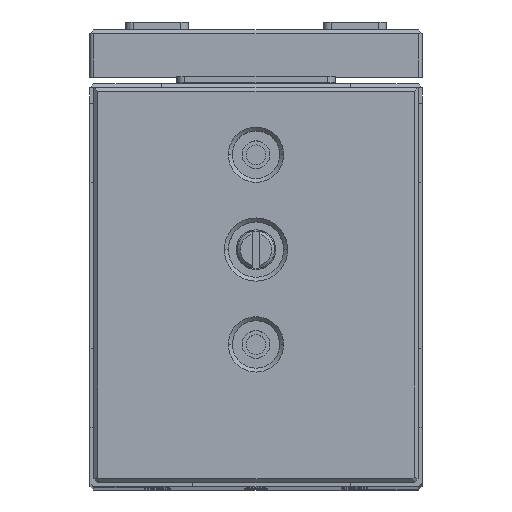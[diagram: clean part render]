
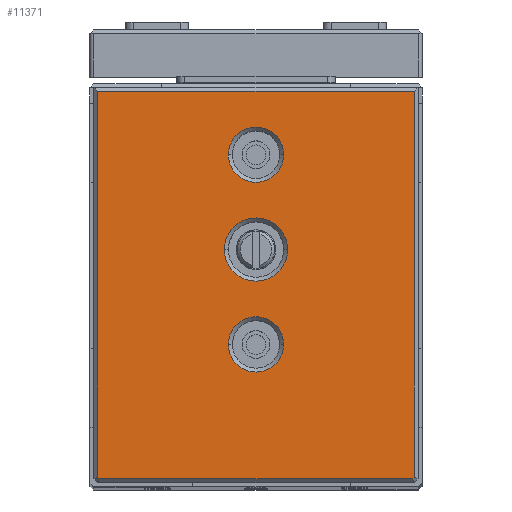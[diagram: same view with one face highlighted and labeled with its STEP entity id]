
A CAD part, top view. The second image highlights one B-rep face of the part: STEP entity #11371.
In plain terms, the highlighted planar face has unit normal (0, 0, 1) as drawn and (0, 0, -1) by its records, which use the part's own axes.
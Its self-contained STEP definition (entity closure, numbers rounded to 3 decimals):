
#3 = EDGE_CURVE ( 'NONE', #129, #25321, #38828, .T. ) ;
#129 = VERTEX_POINT ( 'NONE', #55123 ) ;
#1135 = ORIENTED_EDGE ( 'NONE', *, *, #4489, .T. ) ;
#1777 = EDGE_CURVE ( 'NONE', #36483, #11028, #7159, .T. ) ;
#1961 = DIRECTION ( 'NONE',  ( -1., 0., 0. ) ) ;
#2286 = ORIENTED_EDGE ( 'NONE', *, *, #43385, .T. ) ;
#2479 = CARTESIAN_POINT ( 'NONE',  ( 17., 41.5, 0. ) ) ;
#4348 = DIRECTION ( 'NONE',  ( -1., 0., 0. ) ) ;
#4431 = VERTEX_POINT ( 'NONE', #44861 ) ;
#4489 = EDGE_CURVE ( 'NONE', #55835, #20069, #43599, .T. ) ;
#5368 = DIRECTION ( 'NONE',  ( 1., 0., 0. ) ) ;
#5380 = CARTESIAN_POINT ( 'NONE',  ( 40.5, 49.5, 0. ) ) ;
#5640 = VERTEX_POINT ( 'NONE', #39640 ) ;
#5864 = VECTOR ( 'NONE', #6182, 1000. ) ;
#5960 = CARTESIAN_POINT ( 'NONE',  ( 0.5, 50., 0. ) ) ;
#6182 = DIRECTION ( 'NONE',  ( -0.707, -0.707, 0. ) ) ;
#6479 = FACE_BOUND ( 'NONE', #31575, .T. ) ;
#6733 = CIRCLE ( 'NONE', #37509, 3.5 ) ;
#7077 = LINE ( 'NONE', #5960, #9519 ) ;
#7159 = CIRCLE ( 'NONE', #43366, 3.5 ) ;
#7400 = AXIS2_PLACEMENT_3D ( 'NONE', #27295, #52504, #13710 ) ;
#7451 = AXIS2_PLACEMENT_3D ( 'NONE', #20525, #37807, #15153 ) ;
#7609 = CARTESIAN_POINT ( 'NONE',  ( 20.5, 29.5, 0. ) ) ;
#7794 = LINE ( 'NONE', #42354, #24977 ) ;
#8600 = CARTESIAN_POINT ( 'NONE',  ( 20.5, 17.5, 0. ) ) ;
#9214 = ORIENTED_EDGE ( 'NONE', *, *, #13094, .T. ) ;
#9519 = VECTOR ( 'NONE', #11324, 1000. ) ;
#10965 = DIRECTION ( 'NONE',  ( 0., 0., 1. ) ) ;
#11028 = VERTEX_POINT ( 'NONE', #39099 ) ;
#11198 = EDGE_LOOP ( 'NONE', ( #52863, #2286 ) ) ;
#11324 = DIRECTION ( 'NONE',  ( 0., 1., 0. ) ) ;
#11337 = VERTEX_POINT ( 'NONE', #52389 ) ;
#11371 = ADVANCED_FACE ( 'NONE', ( #54612, #41888, #32814, #6479 ), #19514, .T. ) ;
#12453 = EDGE_CURVE ( 'NONE', #4431, #129, #22522, .T. ) ;
#13045 = VECTOR ( 'NONE', #44964, 1000. ) ;
#13094 = EDGE_CURVE ( 'NONE', #5640, #11337, #42889, .T. ) ;
#13710 = DIRECTION ( 'NONE',  ( -1., 0., 0. ) ) ;
#14025 = VERTEX_POINT ( 'NONE', #43226 ) ;
#15153 = DIRECTION ( 'NONE',  ( -1., 0., 0. ) ) ;
#15481 = CARTESIAN_POINT ( 'NONE',  ( 20.5, 41.5, 0. ) ) ;
#17305 = DIRECTION ( 'NONE',  ( 0., 0., 1. ) ) ;
#19330 = EDGE_LOOP ( 'NONE', ( #49817, #26856, #29463, #20273, #53195, #52871 ) ) ;
#19514 = PLANE ( 'NONE',  #20195 ) ;
#19789 = DIRECTION ( 'NONE',  ( -1., 0., 0. ) ) ;
#20069 = VERTEX_POINT ( 'NONE', #2479 ) ;
#20195 = AXIS2_PLACEMENT_3D ( 'NONE', #49260, #50096, #19789 ) ;
#20273 = ORIENTED_EDGE ( 'NONE', *, *, #41844, .T. ) ;
#20293 = DIRECTION ( 'NONE',  ( -1., 0., 0. ) ) ;
#20525 = CARTESIAN_POINT ( 'NONE',  ( 20.5, 29.5, 0. ) ) ;
#21559 = CARTESIAN_POINT ( 'NONE',  ( 17., 17.5, 0. ) ) ;
#22269 = EDGE_CURVE ( 'NONE', #25321, #51869, #7077, .T. ) ;
#22522 = LINE ( 'NONE', #27048, #29426 ) ;
#22848 = CIRCLE ( 'NONE', #7451, 4. ) ;
#24349 = DIRECTION ( 'NONE',  ( 0., 0., 1. ) ) ;
#24977 = VECTOR ( 'NONE', #50291, 1000. ) ;
#25196 = EDGE_CURVE ( 'NONE', #32846, #14025, #7794, .T. ) ;
#25321 = VERTEX_POINT ( 'NONE', #26754 ) ;
#25641 = CARTESIAN_POINT ( 'NONE',  ( 24., 41.5, 0. ) ) ;
#25864 = EDGE_LOOP ( 'NONE', ( #30522, #9214 ) ) ;
#26754 = CARTESIAN_POINT ( 'NONE',  ( 0.5, 0.707, 0. ) ) ;
#26856 = ORIENTED_EDGE ( 'NONE', *, *, #54667, .T. ) ;
#27048 = CARTESIAN_POINT ( 'NONE',  ( 0.5, 0.5, 0. ) ) ;
#27295 = CARTESIAN_POINT ( 'NONE',  ( 20.5, 41.5, 0. ) ) ;
#29426 = VECTOR ( 'NONE', #39800, 1000. ) ;
#29463 = ORIENTED_EDGE ( 'NONE', *, *, #25196, .T. ) ;
#30522 = ORIENTED_EDGE ( 'NONE', *, *, #38362, .T. ) ;
#30719 = ORIENTED_EDGE ( 'NONE', *, *, #35112, .T. ) ;
#31158 = AXIS2_PLACEMENT_3D ( 'NONE', #7609, #24349, #1961 ) ;
#31575 = EDGE_LOOP ( 'NONE', ( #30719, #1135 ) ) ;
#32814 = FACE_BOUND ( 'NONE', #11198, .T. ) ;
#32846 = VERTEX_POINT ( 'NONE', #5380 ) ;
#34581 = DIRECTION ( 'NONE',  ( -1., 0., 0. ) ) ;
#34866 = CARTESIAN_POINT ( 'NONE',  ( 20.5, 17.5, 0. ) ) ;
#35112 = EDGE_CURVE ( 'NONE', #20069, #55835, #6733, .T. ) ;
#36483 = VERTEX_POINT ( 'NONE', #21559 ) ;
#37509 = AXIS2_PLACEMENT_3D ( 'NONE', #15481, #10965, #20293 ) ;
#37807 = DIRECTION ( 'NONE',  ( 0., 0., 1. ) ) ;
#38362 = EDGE_CURVE ( 'NONE', #11337, #5640, #22848, .T. ) ;
#38828 = LINE ( 'NONE', #47613, #13045 ) ;
#39099 = CARTESIAN_POINT ( 'NONE',  ( 24., 17.5, 0. ) ) ;
#39385 = CARTESIAN_POINT ( 'NONE',  ( 41., 49.5, 0. ) ) ;
#39640 = CARTESIAN_POINT ( 'NONE',  ( 24.5, 29.5, 0. ) ) ;
#39800 = DIRECTION ( 'NONE',  ( -1., 0., 0. ) ) ;
#41844 = EDGE_CURVE ( 'NONE', #14025, #4431, #50368, .T. ) ;
#41888 = FACE_BOUND ( 'NONE', #25864, .T. ) ;
#42354 = CARTESIAN_POINT ( 'NONE',  ( 40.5, 0.5, 0. ) ) ;
#42653 = CARTESIAN_POINT ( 'NONE',  ( 0.5, 49.5, 0. ) ) ;
#42889 = CIRCLE ( 'NONE', #31158, 4. ) ;
#43177 = DIRECTION ( 'NONE',  ( 0., 0., 1. ) ) ;
#43226 = CARTESIAN_POINT ( 'NONE',  ( 40.5, 0.707, 0. ) ) ;
#43366 = AXIS2_PLACEMENT_3D ( 'NONE', #34866, #17305, #34581 ) ;
#43385 = EDGE_CURVE ( 'NONE', #11028, #36483, #45794, .T. ) ;
#43599 = CIRCLE ( 'NONE', #7400, 3.5 ) ;
#44861 = CARTESIAN_POINT ( 'NONE',  ( 40.293, 0.5, 0. ) ) ;
#44964 = DIRECTION ( 'NONE',  ( -0.707, 0.707, 0. ) ) ;
#45794 = CIRCLE ( 'NONE', #53000, 3.5 ) ;
#46129 = CARTESIAN_POINT ( 'NONE',  ( 40.146, 0.354, 0. ) ) ;
#47613 = CARTESIAN_POINT ( 'NONE',  ( 0.354, 0.854, 0. ) ) ;
#49260 = CARTESIAN_POINT ( 'NONE',  ( 0., 0., 0. ) ) ;
#49817 = ORIENTED_EDGE ( 'NONE', *, *, #22269, .T. ) ;
#50096 = DIRECTION ( 'NONE',  ( 0., 0., -1. ) ) ;
#50291 = DIRECTION ( 'NONE',  ( 0., -1., 0. ) ) ;
#50368 = LINE ( 'NONE', #46129, #5864 ) ;
#51821 = LINE ( 'NONE', #39385, #53803 ) ;
#51869 = VERTEX_POINT ( 'NONE', #42653 ) ;
#52389 = CARTESIAN_POINT ( 'NONE',  ( 16.5, 29.5, 0. ) ) ;
#52504 = DIRECTION ( 'NONE',  ( 0., 0., 1. ) ) ;
#52863 = ORIENTED_EDGE ( 'NONE', *, *, #1777, .T. ) ;
#52871 = ORIENTED_EDGE ( 'NONE', *, *, #3, .T. ) ;
#53000 = AXIS2_PLACEMENT_3D ( 'NONE', #8600, #43177, #4348 ) ;
#53195 = ORIENTED_EDGE ( 'NONE', *, *, #12453, .T. ) ;
#53803 = VECTOR ( 'NONE', #5368, 1000. ) ;
#54612 = FACE_OUTER_BOUND ( 'NONE', #19330, .T. ) ;
#54667 = EDGE_CURVE ( 'NONE', #51869, #32846, #51821, .T. ) ;
#55123 = CARTESIAN_POINT ( 'NONE',  ( 0.707, 0.5, 0. ) ) ;
#55835 = VERTEX_POINT ( 'NONE', #25641 ) ;
